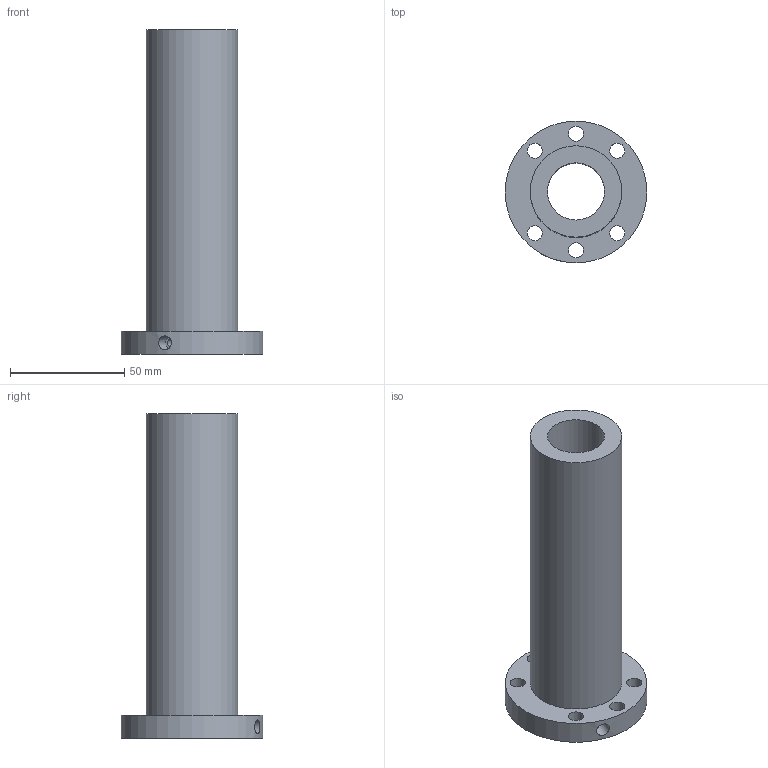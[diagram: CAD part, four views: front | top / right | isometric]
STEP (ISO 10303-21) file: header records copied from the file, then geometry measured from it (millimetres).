
FILE_DESCRIPTION(/* description */ (''),/* implementation_level */ '2;1');
FILE_NAME(/* name */ '25-25K2_3175',/* time_stamp */ '2007-10-15T12:54:01+08:00',/* author */ (''),/* organization */ (''),/* preprocessor_version */ 'ST-DEVELOPER v11',/* originating_system */ 'UGS - NX 5.0',/* authorisation */ '');
FILE_SCHEMA (('CONFIG_CONTROL_DESIGN'));
Length unit declared in the file: millimetre
Products named in the file (1): 25-25K2_3175
Bounding box: 62 x 62 x 142 mm (x, y, z)
Volume: 123952.5 mm3; surface area: 35835.2 mm2
Topology: 1 solids, 1 shells, 15 faces, 34 edges, 23 vertices
Faces by surface type: cylinder 11, plane 4
Full cylindrical faces by diameter (mm): 4 x1, 6 x1, 6.6 x6, 25 x1, 40 x1, 62 x1
Entity records: 600 total; most frequent: CARTESIAN_POINT 174, DIRECTION 72, FACE_BOUND 44, EDGE_LOOP 44, ORIENTED_EDGE 44, AXIS2_PLACEMENT_3D 36, VERTEX_POINT 22, EDGE_CURVE 22
